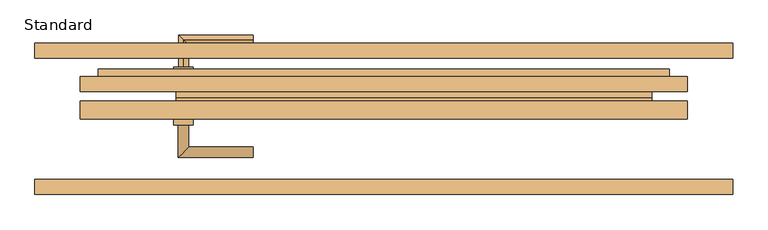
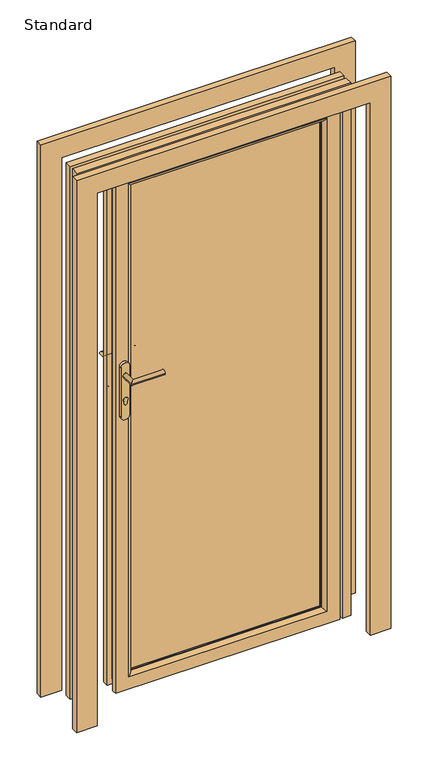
"""IFC4 building model written with IfcOpenShell, lengths in millimetres: door geometry, SMARTS_Visofold1000 : Standard."""

from ifc_helpers import new_model, si_unit, point, frame, frame_2d, origin, place, context, project, spatial, polyline, circle_curve, ellipse_curve, trimmed, segment, composite_curve, outline, extrude, faceted_brep, source, transform, mapped, element, save
from ifc_brep_helpers import plane_surface, cylinder_surface, advanced_brep


def standard_f8171d75(model_context):
    return source(origin(), model_context, "Body", "SolidModel", [
        advanced_brep(
        [(-330.0, 75.0, 1232.5996413), (-330.0, 75.0, 1215.5996413), (-330.0, 130.0, 1215.5996413), (-330.0, 130.0, 1232.5996413), (-215.0, 130.0, 1232.5996413), (-215.0, 130.0, 1215.5996413)],
        [
            (0, 1, circle_curve(frame((-330.0, 75.0, 1224.0996413), z_axis=(0.0, -1.0, 0.0), x_axis=(0.0, 0.0, -1.0)), 8.5)),
            (1, 0, circle_curve(frame((-330.0, 75.0, 1224.0996413), z_axis=(0.0, -1.0, 0.0), x_axis=(0.0, 0.0, -1.0)), 8.5)),
            (1, 2),
            (2, 3, ellipse_curve(frame((-330.0, 130.0, 1224.0996413), z_axis=(-0.7071067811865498, -0.7071067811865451, 0.0), x_axis=(0.707106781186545, -0.70710678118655, 0.0)), 12.0208153, 8.5)),
            (3, 0),
            (3, 2, ellipse_curve(frame((-330.0, 130.0, 1224.0996413), z_axis=(-0.7071067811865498, -0.7071067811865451, 0.0), x_axis=(0.707106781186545, -0.70710678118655, 0.0)), 12.0208153, 8.5)),
            (4, 5, circle_curve(frame((-215.0, 130.0, 1224.0996413), z_axis=(1.0, 0.0, 0.0), x_axis=(0.0, 0.0, -1.0)), 8.5)),
            (5, 4, circle_curve(frame((-215.0, 130.0, 1224.0996413), z_axis=(1.0, 0.0, 0.0), x_axis=(0.0, 0.0, -1.0)), 8.5)),
            (2, 5),
            (4, 3),
        ],
        [
            plane_surface(frame((-330.0, 75.0, 1224.0996413), z_axis=(0.0, -1.0, 0.0), x_axis=(0.0, 0.0, -1.0))),
            cylinder_surface(frame((-330.0, 75.0, 1224.0996413), z_axis=(0.0, -1.0, 0.0), x_axis=(0.0, 0.0, -1.0)), 8.5),
            plane_surface(frame((-215.0, 130.0, 1224.0996413), z_axis=(1.0, 0.0, 0.0), x_axis=(0.0, 0.0, -1.0))),
            cylinder_surface(frame((-330.0, 130.0, 1224.0996413), z_axis=(-1.0, 0.0, 0.0), x_axis=(0.0, 0.0, -1.0)), 8.5),
        ],
        [
            (0, [[1, 2]]),
            (1, [[-2, 3, 4, 5]]),
            (1, [[-1, -5, 6, -3]]),
            (2, [[7, 8]]),
            (3, [[-4, 9, -7, 10]]),
            (3, [[-6, -10, -8, -9]]),
        ],
    ),
        extrude(outline(composite_curve([segment(trimmed(circle_curve(frame_2d((1258.0996413, -330.0)), 16.0), [point((1258.0996413, -314.0))], [point((1258.0996413, -346.0))], False, "CARTESIAN"), True, "CONTINUOUS"), segment(polyline([(1258.0996413, -346.0), (1070.0996413, -346.0)]), True, "CONTINUOUS"), segment(trimmed(circle_curve(frame_2d((1070.0996413, -330.0)), 16.0), [point((1070.0996413, -346.0))], [point((1070.0996413, -314.0))], False, "CARTESIAN"), True, "CONTINUOUS"), segment(polyline([(1070.0996413, -314.0), (1258.0996413, -314.0)]), True, "CONTINUOUS")], self_intersect=False)), frame((0.0, 75.0, 0.0), z_axis=(0.0, 1.0, 0.0), x_axis=(0.0, 0.0, 1.0)), (0.0, 0.0, 1.0), 10.0),
        advanced_brep(
        [(-321.5, 0.0, 1224.0996413), (-338.5, 0.0, 1224.0996413), (-321.5, -46.5, 1224.0996413), (-338.5, -63.5, 1224.0996413), (-215.0, -46.5, 1224.0996413), (-215.0, -63.5, 1224.0996413)],
        [
            (0, 1, circle_curve(frame((-330.0, 0.0, 1224.0996413), z_axis=(0.0, 1.0, 0.0), x_axis=(-1.0, 0.0, 0.0)), 8.5)),
            (1, 0, circle_curve(frame((-330.0, 0.0, 1224.0996413), z_axis=(0.0, 1.0, 0.0), x_axis=(-1.0, 0.0, 0.0)), 8.5)),
            (0, 2),
            (2, 3, ellipse_curve(frame((-330.0, -55.0, 1224.0996413), z_axis=(-0.7071067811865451, 0.7071067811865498, 0.0), x_axis=(0.7071067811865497, 0.7071067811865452, 0.0)), 12.0208153, 8.5)),
            (3, 1),
            (3, 2, ellipse_curve(frame((-330.0, -55.0, 1224.0996413), z_axis=(-0.7071067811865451, 0.7071067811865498, 0.0), x_axis=(0.7071067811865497, 0.7071067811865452, 0.0)), 12.0208153, 8.5)),
            (4, 5, circle_curve(frame((-215.0, -55.0, 1224.0996413), z_axis=(1.0, 0.0, 0.0), x_axis=(0.0, -1.0, 0.0)), 8.5)),
            (5, 4, circle_curve(frame((-215.0, -55.0, 1224.0996413), z_axis=(1.0, 0.0, 0.0), x_axis=(0.0, -1.0, 0.0)), 8.5)),
            (2, 4),
            (5, 3),
        ],
        [
            plane_surface(frame((-330.0, 0.0, 1224.0996413), z_axis=(0.0, 1.0, 0.0), x_axis=(0.0, 0.0, -1.0))),
            cylinder_surface(frame((-330.0, 0.0, 1224.0996413), z_axis=(0.0, 1.0, 0.0), x_axis=(-1.0, 0.0, 0.0)), 8.5),
            plane_surface(frame((-215.0, -55.0, 1224.0996413), z_axis=(1.0, 0.0, 0.0), x_axis=(0.0, 0.0, -1.0))),
            cylinder_surface(frame((-330.0, -55.0, 1224.0996413), z_axis=(-1.0, 0.0, 0.0), x_axis=(0.0, -1.0, 0.0)), 8.5),
        ],
        [
            (0, [[1, 2]]),
            (1, [[-1, 3, 4, 5]]),
            (1, [[-2, -5, 6, -3]]),
            (2, [[7, 8]]),
            (3, [[-4, 9, -8, 10]]),
            (3, [[-6, -10, -7, -9]]),
        ],
    ),
        extrude(outline(composite_curve([segment(trimmed(circle_curve(frame_2d((1258.0996413, -330.0)), 16.0), [point((1258.0996413, -314.0))], [point((1258.0996413, -346.0))], False, "CARTESIAN"), True, "CONTINUOUS"), segment(polyline([(1258.0996413, -346.0), (1070.0996413, -346.0)]), True, "CONTINUOUS"), segment(trimmed(circle_curve(frame_2d((1070.0996413, -330.0)), 16.0), [point((1070.0996413, -346.0))], [point((1070.0996413, -314.0))], False, "CARTESIAN"), True, "CONTINUOUS"), segment(polyline([(1070.0996413, -314.0), (1258.0996413, -314.0)]), True, "CONTINUOUS")], self_intersect=False)), frame((0.0, -10.0, 0.0), z_axis=(0.0, 1.0, 0.0), x_axis=(0.0, 0.0, 1.0)), (0.0, 0.0, 1.0), 10.0),
        extrude(outline(composite_curve([segment(trimmed(circle_curve(frame_2d((1132.0996413, -329.9428094)), 8.5), [point((1125.1769586, -325.0106229))], [point((1125.27562, -335.0106229))], False, "CARTESIAN"), True, "CONTINUOUS"), segment(polyline([(1125.27562, -335.0106229), (1117.5996413, -335.0106229)]), True, "CONTINUOUS"), segment(trimmed(circle_curve(frame_2d((1117.5996413, -330.0106229)), 5.0), [point((1117.5996413, -335.0106229))], [point((1117.5996413, -325.0106229))], False, "CARTESIAN"), True, "CONTINUOUS"), segment(polyline([(1117.5996413, -325.0106229), (1125.1769586, -325.0106229)]), True, "CONTINUOUS")], self_intersect=False)), frame((0.0, 85.0, 0.0), z_axis=(0.0, 1.0, 0.0), x_axis=(0.0, 0.0, 1.0)), (0.0, 0.0, 1.0), 2.0),
        extrude(outline(composite_curve([segment(trimmed(circle_curve(frame_2d((1132.0996413, -329.9428094)), 8.5), [point((1125.1769586, -325.0106229))], [point((1125.27562, -335.0106229))], False, "CARTESIAN"), True, "CONTINUOUS"), segment(polyline([(1125.27562, -335.0106229), (1117.5996413, -335.0106229)]), True, "CONTINUOUS"), segment(trimmed(circle_curve(frame_2d((1117.5996413, -330.0106229)), 5.0), [point((1117.5996413, -335.0106229))], [point((1117.5996413, -325.0106229))], False, "CARTESIAN"), True, "CONTINUOUS"), segment(polyline([(1117.5996413, -325.0106229), (1125.1769586, -325.0106229)]), True, "CONTINUOUS")], self_intersect=False)), frame((0.0, -12.0, 0.0), z_axis=(0.0, 1.0, 0.0), x_axis=(0.0, 0.0, 1.0)), (0.0, 0.0, 1.0), 2.0),
        extrude(outline(polyline([(45.0, -315.0), (45.0, 415.0), (1955.0, 415.0), (1955.0, -315.0), (45.0, -315.0)]), holes=[polyline([(1939.5, -299.5), (1939.5, 399.5), (60.5, 399.5), (60.5, -299.5), (1939.5, -299.5)])]), frame((0.0, 17.4, 0.0), z_axis=(0.0, 1.0, 0.0), x_axis=(0.0, 0.0, 1.0)), (0.0, 0.0, 1.0), 35.0),
        faceted_brep([(-360.0, 74.4, 0.0), (-360.0, 52.4, 0.0), (-360.0, 52.4, 2000.0), (-360.0, 74.4, 2000.0), (-299.5, 52.4, 60.5), (-299.5, 74.4, 60.5), (-299.5, 74.4, 1939.5), (-299.5, 52.4, 1939.5), (460.0, 74.4, 0.0), (460.0, 52.4, 0.0), (460.0, 52.4, 2000.0), (460.0, 74.4, 2000.0), (399.5, 74.4, 1939.5), (399.5, 52.4, 1939.5), (399.5, 74.4, 60.5), (399.5, 52.4, 60.5), (-342.1308519, 34.8, 17.8691481), (442.1308519, 34.8, 17.8691481), (442.1308519, 34.8, 1982.1308519), (-342.1308519, 34.8, 1982.1308519), (-315.0, 34.8, 1955.0), (415.0, 34.8, 1955.0), (415.0, 34.8, 45.0), (-315.0, 34.8, 45.0), (-342.1308519, 52.4, 17.8691481), (-342.1308519, 52.4, 1982.1308519), (-315.0, 52.4, 45.0), (-315.0, 52.4, 1955.0), (442.1308519, 52.4, 1982.1308519), (415.0, 52.4, 1955.0), (442.1308519, 52.4, 17.8691481), (415.0, 52.4, 45.0)], [[[0, 1, 2, 3]], [[4, 5, 6, 7]], [[8, 9, 1, 0]], [[3, 2, 10, 11]], [[7, 6, 12, 13]], [[11, 10, 9, 8]], [[13, 12, 14, 15]], [[3, 11, 8, 0], [5, 14, 12, 6]], [[15, 14, 5, 4]], [[16, 17, 18, 19], [20, 21, 22, 23]], [[24, 16, 19, 25]], [[23, 26, 27, 20]], [[25, 19, 18, 28]], [[20, 27, 29, 21]], [[28, 18, 17, 30]], [[21, 29, 31, 22]], [[30, 17, 16, 24]], [[1, 9, 10, 2], [25, 28, 30, 24]], [[26, 31, 29, 27], [7, 13, 15, 4]], [[22, 31, 26, 23]]]),
        advanced_brep(
        [(-299.5, 13.3, 60.5), (-299.5, 17.4, 60.5), (-299.5, 17.4, 1939.5), (-299.5, 13.3, 1939.5), (-360.0, 17.4, 0.0), (-360.0, 0.0, 0.0), (-360.0, 0.0, 2000.0), (-360.0, 17.4, 2000.0), (399.5, 17.4, 1939.5), (399.5, 13.3, 1939.5), (460.0, 0.0, 2000.0), (460.0, 17.4, 2000.0), (399.5, 17.4, 60.5), (399.5, 13.3, 60.5), (460.0, 0.0, 0.0), (460.0, 17.4, 0.0), (-312.8, 0.0, 1952.8), (412.8, 0.0, 1952.8), (412.8, 0.0, 47.2), (-312.8, 0.0, 47.2), (-342.1308519, 34.8, 17.8691481), (-342.1308519, 17.4, 17.8691481), (-342.1308519, 17.4, 1982.1308519), (-342.1308519, 34.8, 1982.1308519), (442.1308519, 17.4, 1982.1308519), (442.1308519, 34.8, 1982.1308519), (442.1308519, 17.4, 17.8691481), (442.1308519, 34.8, 17.8691481), (-315.0, 17.4, 45.0), (-315.0, 34.8, 45.0), (-315.0, 34.8, 1955.0), (-315.0, 17.4, 1955.0), (415.0, 34.8, 1955.0), (415.0, 17.4, 1955.0), (415.0, 34.8, 45.0), (415.0, 17.4, 45.0)],
        [
            (0, 1),
            (1, 2),
            (2, 3),
            (3, 0),
            (4, 5),
            (5, 6),
            (6, 7),
            (7, 4),
            (2, 8),
            (8, 9),
            (9, 3),
            (6, 10),
            (10, 11),
            (11, 7),
            (8, 12),
            (12, 13),
            (13, 9),
            (10, 14),
            (14, 15),
            (15, 11),
            (12, 1),
            (0, 13),
            (5, 14),
            (16, 17),
            (17, 18),
            (18, 19),
            (19, 16),
            (4, 15),
            (19, 0, ellipse_curve(frame((-312.8, 13.3, 47.2), z_axis=(-0.70710678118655, 0.0, 0.707106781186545), x_axis=(-0.707106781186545, 0.0, -0.7071067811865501)), 18.8090404, 13.3)),
            (3, 16, ellipse_curve(frame((-312.8, 13.3, 1952.8), z_axis=(-0.7071067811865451, 0.0, -0.7071067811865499), x_axis=(0.70710678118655, 0.0, -0.7071067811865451)), 18.8090404, 13.3)),
            (9, 17, ellipse_curve(frame((412.8, 13.3, 1952.8), z_axis=(-0.70710678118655, 0.0, 0.707106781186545), x_axis=(-0.707106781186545, 0.0, -0.7071067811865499)), 18.8090404, 13.3)),
            (13, 18, ellipse_curve(frame((412.8, 13.3, 47.2), z_axis=(0.7071067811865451, 0.0, 0.7071067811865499), x_axis=(-0.70710678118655, 0.0, 0.7071067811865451)), 18.8090404, 13.3)),
            (20, 21),
            (21, 22),
            (22, 23),
            (23, 20),
            (22, 24),
            (24, 25),
            (25, 23),
            (24, 26),
            (26, 27),
            (27, 25),
            (21, 26),
            (20, 27),
            (28, 29),
            (29, 30),
            (30, 31),
            (31, 28),
            (30, 32),
            (32, 33),
            (33, 31),
            (32, 34),
            (34, 35),
            (35, 33),
            (34, 29),
            (28, 35),
        ],
        [
            plane_surface(frame((-299.5, 17.4, 60.5), z_axis=(1.0, 0.0, 0.0), x_axis=(0.0, 0.0, 1.0))),
            plane_surface(frame((-360.0, 0.0, 0.0), z_axis=(-1.0, 0.0, 0.0), x_axis=(0.0, 0.0, 1.0))),
            plane_surface(frame((-299.5, 17.4, 1939.5), z_axis=(0.0, 0.0, -1.0), x_axis=(1.0, 0.0, 0.0))),
            plane_surface(frame((-360.0, 0.0, 2000.0), z_axis=(0.0, 0.0, 1.0), x_axis=(1.0, 0.0, 0.0))),
            plane_surface(frame((399.5, 17.4, 1939.5), z_axis=(-1.0, 0.0, 0.0), x_axis=(0.0, 0.0, -1.0))),
            plane_surface(frame((460.0, 0.0, 2000.0), z_axis=(1.0, 0.0, 0.0), x_axis=(0.0, 0.0, -1.0))),
            plane_surface(frame((399.5, 17.4, 60.5), z_axis=(0.0, 0.0, 1.0), x_axis=(-1.0, 0.0, 0.0))),
            plane_surface(frame((412.8, 0.0, 47.2), z_axis=(0.0, -1.0, 0.0), x_axis=(-1.0, 0.0, 0.0))),
            plane_surface(frame((460.0, 0.0, 0.0), z_axis=(0.0, 0.0, -1.0), x_axis=(-1.0, 0.0, 0.0))),
            cylinder_surface(frame((-312.8, 13.3, 0.0), z_axis=(0.0, 0.0, -1.0), x_axis=(0.0, 1.0, 0.0)), 13.3),
            cylinder_surface(frame((-360.0, 13.3, 1952.8), z_axis=(-1.0, 0.0, 0.0), x_axis=(0.0, 1.0, 0.0)), 13.3),
            cylinder_surface(frame((412.8, 13.3, 2000.0), z_axis=(0.0, 0.0, 1.0), x_axis=(0.0, 1.0, 0.0)), 13.3),
            cylinder_surface(frame((460.0, 13.3, 47.2), z_axis=(1.0, 0.0, 0.0), x_axis=(0.0, 1.0, 0.0)), 13.3),
            plane_surface(frame((-342.1308519, 17.4, 17.8691481), z_axis=(-1.0, 0.0, 0.0), x_axis=(0.0, 0.0, 1.0))),
            plane_surface(frame((-342.1308519, 17.4, 1982.1308519), z_axis=(0.0, 0.0, 1.0), x_axis=(1.0, 0.0, 0.0))),
            plane_surface(frame((442.1308519, 17.4, 1982.1308519), z_axis=(1.0, 0.0, 0.0), x_axis=(0.0, 0.0, -1.0))),
            plane_surface(frame((460.0, 17.4, 0.0), z_axis=(0.0, 1.0, 0.0), x_axis=(-1.0, 0.0, 0.0))),
            plane_surface(frame((442.1308519, 17.4, 17.8691481), z_axis=(0.0, 0.0, -1.0), x_axis=(-1.0, 0.0, 0.0))),
            plane_surface(frame((-315.0, 34.8, 45.0), z_axis=(1.0, 0.0, 0.0), x_axis=(0.0, 0.0, 1.0))),
            plane_surface(frame((-315.0, 34.8, 1955.0), z_axis=(0.0, 0.0, -1.0), x_axis=(1.0, 0.0, 0.0))),
            plane_surface(frame((415.0, 34.8, 1955.0), z_axis=(-1.0, 0.0, 0.0), x_axis=(0.0, 0.0, -1.0))),
            plane_surface(frame((415.0, 34.8, 45.0), z_axis=(0.0, 0.0, 1.0), x_axis=(-1.0, 0.0, 0.0))),
            plane_surface(frame((415.0, 17.4, 45.0), z_axis=(0.0, 1.0, 0.0), x_axis=(-1.0, 0.0, 0.0))),
            plane_surface(frame((442.1308519, 34.8, 17.8691481), z_axis=(0.0, 1.0, 0.0), x_axis=(-1.0, 0.0, 0.0))),
        ],
        [
            (0, [[1, 2, 3, 4]]),
            (1, [[5, 6, 7, 8]]),
            (2, [[-3, 9, 10, 11]]),
            (3, [[-7, 12, 13, 14]]),
            (4, [[-10, 15, 16, 17]]),
            (5, [[-13, 18, 19, 20]]),
            (6, [[-16, 21, -1, 22]]),
            (7, [[23, -18, -12, -6], [24, 25, 26, 27]]),
            (8, [[-19, -23, -5, 28]]),
            (9, [[29, -4, 30, -27]]),
            (10, [[-30, -11, 31, -24]]),
            (11, [[-31, -17, 32, -25]]),
            (12, [[-32, -22, -29, -26]]),
            (13, [[33, 34, 35, 36]]),
            (14, [[-35, 37, 38, 39]]),
            (15, [[-38, 40, 41, 42]]),
            (16, [[-14, -20, -28, -8], [43, -40, -37, -34]]),
            (17, [[-41, -43, -33, 44]]),
            (18, [[45, 46, 47, 48]]),
            (19, [[-47, 49, 50, 51]]),
            (20, [[-50, 52, 53, 54]]),
            (21, [[-53, 55, -45, 56]]),
            (22, [[-51, -54, -56, -48], [-21, -15, -9, -2]]),
            (23, [[-39, -42, -44, -36], [-55, -52, -49, -46]]),
        ],
    ),
        extrude(outline(polyline([(-299.5, 50.1484783), (399.5, 50.1484783), (399.5, 21.4), (-299.5, 21.4), (-299.5, 50.1484783)])), frame((0.0, 0.0, 60.5), z_axis=(0.0, 0.0, 1.0), x_axis=(1.0, 0.0, 0.0)), (0.0, 0.0, 1.0), 1879.0),
        extrude(outline(polyline([(2058.6516063, -500.0), (2058.6516063, 500.0), (0.0, 500.0), (0.0, 575.0), (2133.6516063, 575.0), (2133.6516063, -575.0), (0.0, -575.0), (0.0, -500.0), (2058.6516063, -500.0)])), frame((0.0, 100.0, 0.0), z_axis=(0.0, 1.0, 0.0), x_axis=(0.0, 0.0, 1.0)), (0.0, 0.0, 1.0), 25.0),
        extrude(outline(polyline([(2133.6516063, -575.0), (0.0, -575.0), (0.0, -500.0), (2058.6516063, -500.0), (2058.6516063, 500.0), (0.0, 500.0), (0.0, 575.0), (2133.6516063, 575.0), (2133.6516063, -575.0)])), frame((0.0, -125.0, 0.0), z_axis=(0.0, 1.0, 0.0), x_axis=(0.0, 0.0, 1.0)), (0.0, 0.0, 1.0), 25.0),
        extrude(outline(polyline([(0.0, 468.8), (0.0, 500.0), (2058.6516063, 500.0), (2058.6516063, -500.0), (0.0, -500.0), (0.0, -468.8), (2027.4516063, -468.8), (2027.4516063, 468.8), (0.0, 468.8)])), frame((0.0, 0.0, 0.0), z_axis=(0.0, 1.0, 0.0), x_axis=(0.0, 0.0, 1.0)), (0.0, 0.0, 1.0), 29.65),
        faceted_brep([(500.0, 44.85, 0.0), (468.8, 44.85, 0.0), (468.8, 77.4, 0.0), (448.3, 77.4, 0.0), (448.3, 81.9, 0.0), (470.6, 81.9, 0.0), (470.6, 70.0, 0.0), (500.0, 70.0, 0.0), (500.0, 44.85, 2058.6516063), (-500.0, 44.85, 2058.6516063), (-500.0, 44.85, 0.0), (-468.8, 44.85, 0.0), (-468.8, 44.85, 2027.4516063), (468.8, 44.85, 2027.4516063), (468.8, 77.4, 2027.4516063), (-468.8, 77.4, 2027.4516063), (-468.8, 77.4, 0.0), (-448.3, 77.4, 0.0), (-448.3, 77.4, 2006.9516063), (448.3, 77.4, 2006.9516063), (448.3, 81.9, 2006.9516063), (-448.3, 81.9, 2006.9516063), (-448.3, 81.9, 0.0), (-470.6, 81.9, 0.0), (-470.6, 81.9, 2029.2516063), (470.6, 81.9, 2029.2516063), (470.6, 70.0, 2029.2516063), (-470.6, 70.0, 2029.2516063), (-470.6, 70.0, 0.0), (-500.0, 70.0, 0.0), (-500.0, 70.0, 2058.6516063), (500.0, 70.0, 2058.6516063)], [[[0, 1, 2, 3, 4, 5, 6, 7]], [[1, 0, 8, 9, 10, 11, 12, 13]], [[2, 1, 13, 14]], [[3, 2, 14, 15, 16, 17, 18, 19]], [[4, 3, 19, 20]], [[5, 4, 20, 21, 22, 23, 24, 25]], [[6, 5, 25, 26]], [[7, 6, 26, 27, 28, 29, 30, 31]], [[0, 7, 31, 8]], [[10, 29, 28, 23, 22, 17, 16, 11]], [[9, 30, 29, 10]], [[27, 24, 23, 28]], [[21, 18, 17, 22]], [[15, 12, 11, 16]], [[8, 31, 30, 9]], [[14, 13, 12, 15]], [[26, 25, 24, 27]], [[20, 19, 18, 21]]]),
    ])


if __name__ == "__main__":
    model = new_model("IFC4")
    model_context = context("Model", 3, world=origin())
    ifc_project = project(units=[si_unit("LENGTHUNIT", "METRE", prefix="MILLI")], contexts=[model_context])
    site = spatial("IfcSite", under=ifc_project)
    building = spatial("IfcBuilding", under=site)
    placement = place(None, origin())
    standard_shape = standard_f8171d75(model_context)
    element("IfcDoor", 1, ObjectType="SMARTS_Visofold1000 : Standard", at=placement, inside=building, context=model_context, shape_type="MappedRepresentation", body=[
        mapped(standard_shape, transform((0.0, 0.0, 0.0), x_axis=(1.0, 0.0, 0.0), y_axis=(0.0, 1.0, 0.0), z_axis=(0.0, 0.0, 1.0))),
    ])
    save(model, "model.ifc")
